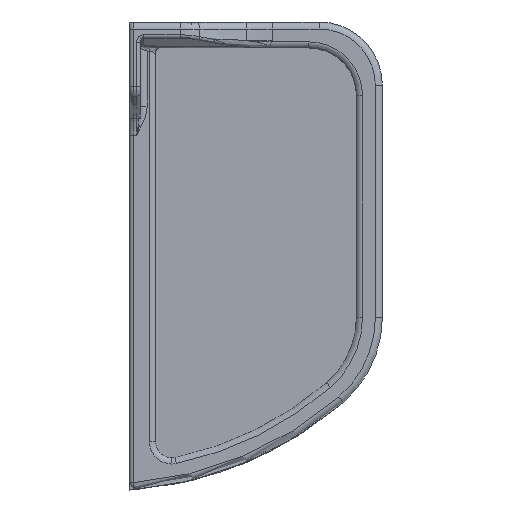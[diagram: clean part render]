
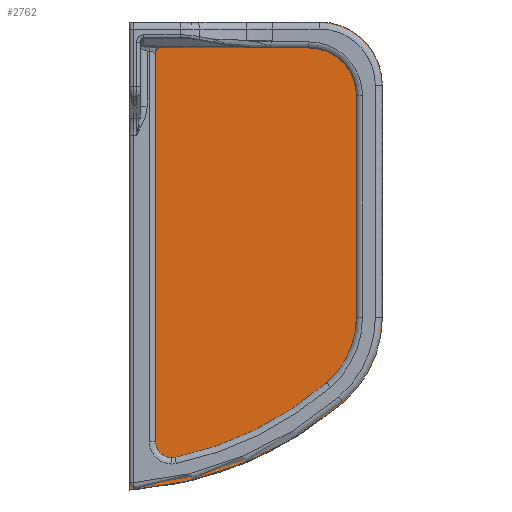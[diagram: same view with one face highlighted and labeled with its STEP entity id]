
A CAD part, front view. The second image highlights one B-rep face of the part: STEP entity #2762.
In plain terms, the highlighted planar face has unit normal (0, -1, 0).
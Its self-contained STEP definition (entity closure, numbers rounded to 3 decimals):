
#27 = DIRECTION ( 'NONE',  ( 1., 0., 0. ) ) ;
#58 = VERTEX_POINT ( 'NONE', #400 ) ;
#66 = VECTOR ( 'NONE', #4512, 1000. ) ;
#83 = VECTOR ( 'NONE', #1575, 1000. ) ;
#160 = LINE ( 'NONE', #5265, #5796 ) ;
#201 = CARTESIAN_POINT ( 'NONE',  ( 0., -48.23, -333.305 ) ) ;
#312 = CIRCLE ( 'NONE', #2582, 520.257 ) ;
#400 = CARTESIAN_POINT ( 'NONE',  ( 360., -48.23, -87.325 ) ) ;
#524 = EDGE_CURVE ( 'NONE', #3725, #5974, #312, .T. ) ;
#590 = LINE ( 'NONE', #1821, #6987 ) ;
#656 = VERTEX_POINT ( 'NONE', #1219 ) ;
#751 = ORIENTED_EDGE ( 'NONE', *, *, #5251, .T. ) ;
#811 = CIRCLE ( 'NONE', #2005, 160. ) ;
#886 = CARTESIAN_POINT ( 'NONE',  ( 15., -48.23, 185.777 ) ) ;
#1112 = VERTEX_POINT ( 'NONE', #7078 ) ;
#1219 = CARTESIAN_POINT ( 'NONE',  ( 198., -48.23, 333.305 ) ) ;
#1280 = CARTESIAN_POINT ( 'NONE',  ( 270., -48.23, 333.305 ) ) ;
#1467 = DIRECTION ( 'NONE',  ( 0., 0., -1. ) ) ;
#1498 = EDGE_CURVE ( 'NONE', #656, #4348, #590, .T. ) ;
#1575 = DIRECTION ( 'NONE',  ( 0., 0., 1. ) ) ;
#1685 = ORIENTED_EDGE ( 'NONE', *, *, #2847, .F. ) ;
#1756 = VERTEX_POINT ( 'NONE', #4973 ) ;
#1786 = CARTESIAN_POINT ( 'NONE',  ( -34.948, -48.23, 185.777 ) ) ;
#1816 = LINE ( 'NONE', #6229, #4810 ) ;
#1821 = CARTESIAN_POINT ( 'NONE',  ( 0., -48.23, 333.305 ) ) ;
#2005 = AXIS2_PLACEMENT_3D ( 'NONE', #2078, #2633, #3189 ) ;
#2038 = CARTESIAN_POINT ( 'NONE',  ( 270., -48.23, 243.305 ) ) ;
#2078 = CARTESIAN_POINT ( 'NONE',  ( 200., -48.23, -87.325 ) ) ;
#2175 = LINE ( 'NONE', #3871, #83 ) ;
#2267 = FACE_OUTER_BOUND ( 'NONE', #3922, .T. ) ;
#2441 = DIRECTION ( 'NONE',  ( 0., 0., -1. ) ) ;
#2501 = DIRECTION ( 'NONE',  ( 0., 0., -1. ) ) ;
#2582 = AXIS2_PLACEMENT_3D ( 'NONE', #5514, #2588, #7155 ) ;
#2588 = DIRECTION ( 'NONE',  ( 0., 1., 0. ) ) ;
#2633 = DIRECTION ( 'NONE',  ( 0., -1., 0. ) ) ;
#2692 = VECTOR ( 'NONE', #4531, 1000. ) ;
#2762 = ADVANCED_FACE ( 'NONE', ( #2267 ), #4591, .T. ) ;
#2847 = EDGE_CURVE ( 'NONE', #5974, #1112, #1816, .T. ) ;
#3172 = VECTOR ( 'NONE', #2501, 1000. ) ;
#3189 = DIRECTION ( 'NONE',  ( 0., 0., -1. ) ) ;
#3234 = ORIENTED_EDGE ( 'NONE', *, *, #5936, .F. ) ;
#3370 = ORIENTED_EDGE ( 'NONE', *, *, #5122, .F. ) ;
#3412 = VERTEX_POINT ( 'NONE', #4991 ) ;
#3725 = VERTEX_POINT ( 'NONE', #6709 ) ;
#3774 = ORIENTED_EDGE ( 'NONE', *, *, #1498, .F. ) ;
#3792 = EDGE_CURVE ( 'NONE', #1756, #1112, #3811, .T. ) ;
#3811 = LINE ( 'NONE', #7351, #66 ) ;
#3871 = CARTESIAN_POINT ( 'NONE',  ( 198., -48.23, 313.305 ) ) ;
#3922 = EDGE_LOOP ( 'NONE', ( #3370, #5533, #751, #5074, #1685, #6665, #4028, #3234, #6534, #3774 ) ) ;
#4028 = ORIENTED_EDGE ( 'NONE', *, *, #5697, .T. ) ;
#4034 = DIRECTION ( 'NONE',  ( 0., 0., -1. ) ) ;
#4078 = VERTEX_POINT ( 'NONE', #5337 ) ;
#4348 = VERTEX_POINT ( 'NONE', #1280 ) ;
#4512 = DIRECTION ( 'NONE',  ( -1., 0., 0. ) ) ;
#4531 = DIRECTION ( 'NONE',  ( 1., 0., 0. ) ) ;
#4591 = PLANE ( 'NONE',  #5649 ) ;
#4734 = CARTESIAN_POINT ( 'NONE',  ( 198., -48.23, 313.305 ) ) ;
#4810 = VECTOR ( 'NONE', #5713, 1000. ) ;
#4817 = EDGE_CURVE ( 'NONE', #3412, #4951, #6888, .T. ) ;
#4951 = VERTEX_POINT ( 'NONE', #4734 ) ;
#4973 = CARTESIAN_POINT ( 'NONE',  ( 15., -48.23, 196.423 ) ) ;
#4991 = CARTESIAN_POINT ( 'NONE',  ( 15., -48.23, 313.305 ) ) ;
#5074 = ORIENTED_EDGE ( 'NONE', *, *, #3792, .T. ) ;
#5122 = EDGE_CURVE ( 'NONE', #4951, #656, #2175, .T. ) ;
#5134 = CARTESIAN_POINT ( 'NONE',  ( -34.948, -48.23, 313.305 ) ) ;
#5251 = EDGE_CURVE ( 'NONE', #3412, #1756, #6996, .T. ) ;
#5265 = CARTESIAN_POINT ( 'NONE',  ( 360., -48.23, -152.873 ) ) ;
#5337 = CARTESIAN_POINT ( 'NONE',  ( 360., -48.23, 243.305 ) ) ;
#5514 = CARTESIAN_POINT ( 'NONE',  ( -34.948, -48.23, 185.777 ) ) ;
#5533 = ORIENTED_EDGE ( 'NONE', *, *, #4817, .F. ) ;
#5649 = AXIS2_PLACEMENT_3D ( 'NONE', #1786, #6877, #4034 ) ;
#5697 = EDGE_CURVE ( 'NONE', #3725, #58, #811, .T. ) ;
#5713 = DIRECTION ( 'NONE',  ( 0., 0., 1. ) ) ;
#5796 = VECTOR ( 'NONE', #2441, 1000. ) ;
#5907 = AXIS2_PLACEMENT_3D ( 'NONE', #2038, #6560, #1467 ) ;
#5936 = EDGE_CURVE ( 'NONE', #4078, #58, #160, .T. ) ;
#5974 = VERTEX_POINT ( 'NONE', #201 ) ;
#6139 = EDGE_CURVE ( 'NONE', #4078, #4348, #6266, .T. ) ;
#6229 = CARTESIAN_POINT ( 'NONE',  ( 0., -48.23, -333.305 ) ) ;
#6266 = CIRCLE ( 'NONE', #5907, 90. ) ;
#6534 = ORIENTED_EDGE ( 'NONE', *, *, #6139, .T. ) ;
#6560 = DIRECTION ( 'NONE',  ( 0., -1., 0. ) ) ;
#6665 = ORIENTED_EDGE ( 'NONE', *, *, #524, .F. ) ;
#6709 = CARTESIAN_POINT ( 'NONE',  ( 304.347, -48.23, -208.617 ) ) ;
#6877 = DIRECTION ( 'NONE',  ( 0., -1., 0. ) ) ;
#6888 = LINE ( 'NONE', #5134, #2692 ) ;
#6987 = VECTOR ( 'NONE', #27, 1000. ) ;
#6996 = LINE ( 'NONE', #886, #3172 ) ;
#7078 = CARTESIAN_POINT ( 'NONE',  ( 0., -48.23, 196.423 ) ) ;
#7155 = DIRECTION ( 'NONE',  ( 0., 0., -1. ) ) ;
#7351 = CARTESIAN_POINT ( 'NONE',  ( -34.948, -48.23, 196.423 ) ) ;
